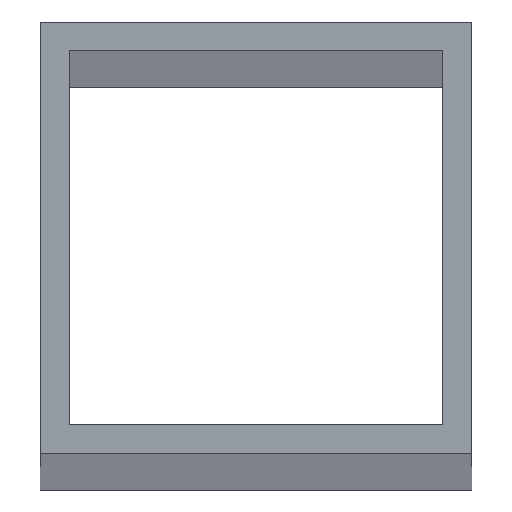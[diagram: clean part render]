
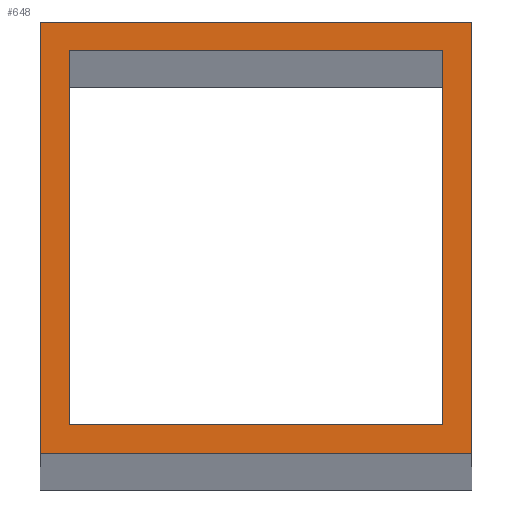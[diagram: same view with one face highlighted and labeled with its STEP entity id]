
A CAD part, top view. The second image highlights one B-rep face of the part: STEP entity #648.
In plain terms, the highlighted planar face has unit normal (0, 0, 1).
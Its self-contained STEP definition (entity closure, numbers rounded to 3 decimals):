
#24 = VERTEX_POINT('',#25);
#25 = CARTESIAN_POINT('',(-30.,-30.,2914.334));
#32 = PLANE('',#33);
#33 = AXIS2_PLACEMENT_3D('',#34,#35,#36);
#34 = CARTESIAN_POINT('',(-30.,-30.,0.));
#35 = DIRECTION('',(0.,1.,0.));
#36 = DIRECTION('',(1.,0.,0.));
#44 = PLANE('',#45);
#45 = AXIS2_PLACEMENT_3D('',#46,#47,#48);
#46 = CARTESIAN_POINT('',(-30.,30.,0.));
#47 = DIRECTION('',(1.,0.,-0.));
#48 = DIRECTION('',(0.,-1.,0.));
#56 = EDGE_CURVE('',#24,#57,#59,.T.);
#57 = VERTEX_POINT('',#58);
#58 = CARTESIAN_POINT('',(30.,-30.,2914.334));
#59 = SURFACE_CURVE('',#60,(#64,#71),.PCURVE_S1.);
#60 = LINE('',#61,#62);
#61 = CARTESIAN_POINT('',(-30.,-30.,2914.334));
#62 = VECTOR('',#63,1.);
#63 = DIRECTION('',(1.,0.,0.));
#64 = PCURVE('',#32,#65);
#65 = DEFINITIONAL_REPRESENTATION('',(#66),#70);
#66 = LINE('',#67,#68);
#67 = CARTESIAN_POINT('',(0.,-2914.334));
#68 = VECTOR('',#69,1.);
#69 = DIRECTION('',(1.,0.));
#70 = ( GEOMETRIC_REPRESENTATION_CONTEXT(2) 
PARAMETRIC_REPRESENTATION_CONTEXT() REPRESENTATION_CONTEXT('2D SPACE',''
  ) );
#71 = PCURVE('',#72,#77);
#72 = PLANE('',#73);
#73 = AXIS2_PLACEMENT_3D('',#74,#75,#76);
#74 = CARTESIAN_POINT('',(0.,0.,2914.334));
#75 = DIRECTION('',(0.,0.,1.));
#76 = DIRECTION('',(1.,0.,-0.));
#77 = DEFINITIONAL_REPRESENTATION('',(#78),#82);
#78 = LINE('',#79,#80);
#79 = CARTESIAN_POINT('',(-30.,-30.));
#80 = VECTOR('',#81,1.);
#81 = DIRECTION('',(1.,0.));
#82 = ( GEOMETRIC_REPRESENTATION_CONTEXT(2) 
PARAMETRIC_REPRESENTATION_CONTEXT() REPRESENTATION_CONTEXT('2D SPACE',''
  ) );
#100 = PLANE('',#101);
#101 = AXIS2_PLACEMENT_3D('',#102,#103,#104);
#102 = CARTESIAN_POINT('',(30.,-30.,0.));
#103 = DIRECTION('',(-1.,0.,0.));
#104 = DIRECTION('',(0.,1.,0.));
#142 = EDGE_CURVE('',#57,#143,#145,.T.);
#143 = VERTEX_POINT('',#144);
#144 = CARTESIAN_POINT('',(30.,30.,2914.334));
#145 = SURFACE_CURVE('',#146,(#150,#157),.PCURVE_S1.);
#146 = LINE('',#147,#148);
#147 = CARTESIAN_POINT('',(30.,-30.,2914.334));
#148 = VECTOR('',#149,1.);
#149 = DIRECTION('',(0.,1.,0.));
#150 = PCURVE('',#100,#151);
#151 = DEFINITIONAL_REPRESENTATION('',(#152),#156);
#152 = LINE('',#153,#154);
#153 = CARTESIAN_POINT('',(0.,-2914.334));
#154 = VECTOR('',#155,1.);
#155 = DIRECTION('',(1.,0.));
#156 = ( GEOMETRIC_REPRESENTATION_CONTEXT(2) 
PARAMETRIC_REPRESENTATION_CONTEXT() REPRESENTATION_CONTEXT('2D SPACE',''
  ) );
#157 = PCURVE('',#72,#158);
#158 = DEFINITIONAL_REPRESENTATION('',(#159),#163);
#159 = LINE('',#160,#161);
#160 = CARTESIAN_POINT('',(30.,-30.));
#161 = VECTOR('',#162,1.);
#162 = DIRECTION('',(0.,1.));
#163 = ( GEOMETRIC_REPRESENTATION_CONTEXT(2) 
PARAMETRIC_REPRESENTATION_CONTEXT() REPRESENTATION_CONTEXT('2D SPACE',''
  ) );
#181 = PLANE('',#182);
#182 = AXIS2_PLACEMENT_3D('',#183,#184,#185);
#183 = CARTESIAN_POINT('',(30.,30.,0.));
#184 = DIRECTION('',(0.,-1.,0.));
#185 = DIRECTION('',(-1.,0.,0.));
#218 = EDGE_CURVE('',#143,#219,#221,.T.);
#219 = VERTEX_POINT('',#220);
#220 = CARTESIAN_POINT('',(-30.,30.,2914.334));
#221 = SURFACE_CURVE('',#222,(#226,#233),.PCURVE_S1.);
#222 = LINE('',#223,#224);
#223 = CARTESIAN_POINT('',(30.,30.,2914.334));
#224 = VECTOR('',#225,1.);
#225 = DIRECTION('',(-1.,0.,0.));
#226 = PCURVE('',#181,#227);
#227 = DEFINITIONAL_REPRESENTATION('',(#228),#232);
#228 = LINE('',#229,#230);
#229 = CARTESIAN_POINT('',(0.,-2914.334));
#230 = VECTOR('',#231,1.);
#231 = DIRECTION('',(1.,0.));
#232 = ( GEOMETRIC_REPRESENTATION_CONTEXT(2) 
PARAMETRIC_REPRESENTATION_CONTEXT() REPRESENTATION_CONTEXT('2D SPACE',''
  ) );
#233 = PCURVE('',#72,#234);
#234 = DEFINITIONAL_REPRESENTATION('',(#235),#239);
#235 = LINE('',#236,#237);
#236 = CARTESIAN_POINT('',(30.,30.));
#237 = VECTOR('',#238,1.);
#238 = DIRECTION('',(-1.,0.));
#239 = ( GEOMETRIC_REPRESENTATION_CONTEXT(2) 
PARAMETRIC_REPRESENTATION_CONTEXT() REPRESENTATION_CONTEXT('2D SPACE',''
  ) );
#289 = EDGE_CURVE('',#219,#24,#290,.T.);
#290 = SURFACE_CURVE('',#291,(#295,#302),.PCURVE_S1.);
#291 = LINE('',#292,#293);
#292 = CARTESIAN_POINT('',(-30.,30.,2914.334));
#293 = VECTOR('',#294,1.);
#294 = DIRECTION('',(0.,-1.,0.));
#295 = PCURVE('',#44,#296);
#296 = DEFINITIONAL_REPRESENTATION('',(#297),#301);
#297 = LINE('',#298,#299);
#298 = CARTESIAN_POINT('',(0.,-2914.334));
#299 = VECTOR('',#300,1.);
#300 = DIRECTION('',(1.,0.));
#301 = ( GEOMETRIC_REPRESENTATION_CONTEXT(2) 
PARAMETRIC_REPRESENTATION_CONTEXT() REPRESENTATION_CONTEXT('2D SPACE',''
  ) );
#302 = PCURVE('',#72,#303);
#303 = DEFINITIONAL_REPRESENTATION('',(#304),#308);
#304 = LINE('',#305,#306);
#305 = CARTESIAN_POINT('',(-30.,30.));
#306 = VECTOR('',#307,1.);
#307 = DIRECTION('',(0.,-1.));
#308 = ( GEOMETRIC_REPRESENTATION_CONTEXT(2) 
PARAMETRIC_REPRESENTATION_CONTEXT() REPRESENTATION_CONTEXT('2D SPACE',''
  ) );
#338 = VERTEX_POINT('',#339);
#339 = CARTESIAN_POINT('',(-26.,-26.,2914.334));
#346 = PLANE('',#347);
#347 = AXIS2_PLACEMENT_3D('',#348,#349,#350);
#348 = CARTESIAN_POINT('',(-26.,-26.,0.));
#349 = DIRECTION('',(0.,1.,0.));
#350 = DIRECTION('',(1.,0.,0.));
#358 = PLANE('',#359);
#359 = AXIS2_PLACEMENT_3D('',#360,#361,#362);
#360 = CARTESIAN_POINT('',(-26.,26.,0.));
#361 = DIRECTION('',(1.,0.,-0.));
#362 = DIRECTION('',(0.,-1.,0.));
#370 = EDGE_CURVE('',#338,#371,#373,.T.);
#371 = VERTEX_POINT('',#372);
#372 = CARTESIAN_POINT('',(26.,-26.,2914.334));
#373 = SURFACE_CURVE('',#374,(#378,#385),.PCURVE_S1.);
#374 = LINE('',#375,#376);
#375 = CARTESIAN_POINT('',(-26.,-26.,2914.334));
#376 = VECTOR('',#377,1.);
#377 = DIRECTION('',(1.,0.,0.));
#378 = PCURVE('',#346,#379);
#379 = DEFINITIONAL_REPRESENTATION('',(#380),#384);
#380 = LINE('',#381,#382);
#381 = CARTESIAN_POINT('',(0.,-2914.334));
#382 = VECTOR('',#383,1.);
#383 = DIRECTION('',(1.,0.));
#384 = ( GEOMETRIC_REPRESENTATION_CONTEXT(2) 
PARAMETRIC_REPRESENTATION_CONTEXT() REPRESENTATION_CONTEXT('2D SPACE',''
  ) );
#385 = PCURVE('',#72,#386);
#386 = DEFINITIONAL_REPRESENTATION('',(#387),#391);
#387 = LINE('',#388,#389);
#388 = CARTESIAN_POINT('',(-26.,-26.));
#389 = VECTOR('',#390,1.);
#390 = DIRECTION('',(1.,0.));
#391 = ( GEOMETRIC_REPRESENTATION_CONTEXT(2) 
PARAMETRIC_REPRESENTATION_CONTEXT() REPRESENTATION_CONTEXT('2D SPACE',''
  ) );
#409 = PLANE('',#410);
#410 = AXIS2_PLACEMENT_3D('',#411,#412,#413);
#411 = CARTESIAN_POINT('',(26.,-26.,0.));
#412 = DIRECTION('',(-1.,0.,0.));
#413 = DIRECTION('',(0.,1.,0.));
#446 = EDGE_CURVE('',#371,#447,#449,.T.);
#447 = VERTEX_POINT('',#448);
#448 = CARTESIAN_POINT('',(26.,26.,2914.334));
#449 = SURFACE_CURVE('',#450,(#454,#461),.PCURVE_S1.);
#450 = LINE('',#451,#452);
#451 = CARTESIAN_POINT('',(26.,-26.,2914.334));
#452 = VECTOR('',#453,1.);
#453 = DIRECTION('',(0.,1.,0.));
#454 = PCURVE('',#409,#455);
#455 = DEFINITIONAL_REPRESENTATION('',(#456),#460);
#456 = LINE('',#457,#458);
#457 = CARTESIAN_POINT('',(0.,-2914.334));
#458 = VECTOR('',#459,1.);
#459 = DIRECTION('',(1.,0.));
#460 = ( GEOMETRIC_REPRESENTATION_CONTEXT(2) 
PARAMETRIC_REPRESENTATION_CONTEXT() REPRESENTATION_CONTEXT('2D SPACE',''
  ) );
#461 = PCURVE('',#72,#462);
#462 = DEFINITIONAL_REPRESENTATION('',(#463),#467);
#463 = LINE('',#464,#465);
#464 = CARTESIAN_POINT('',(26.,-26.));
#465 = VECTOR('',#466,1.);
#466 = DIRECTION('',(0.,1.));
#467 = ( GEOMETRIC_REPRESENTATION_CONTEXT(2) 
PARAMETRIC_REPRESENTATION_CONTEXT() REPRESENTATION_CONTEXT('2D SPACE',''
  ) );
#485 = PLANE('',#486);
#486 = AXIS2_PLACEMENT_3D('',#487,#488,#489);
#487 = CARTESIAN_POINT('',(26.,26.,0.));
#488 = DIRECTION('',(0.,-1.,0.));
#489 = DIRECTION('',(-1.,0.,0.));
#522 = EDGE_CURVE('',#447,#523,#525,.T.);
#523 = VERTEX_POINT('',#524);
#524 = CARTESIAN_POINT('',(-26.,26.,2914.334));
#525 = SURFACE_CURVE('',#526,(#530,#537),.PCURVE_S1.);
#526 = LINE('',#527,#528);
#527 = CARTESIAN_POINT('',(26.,26.,2914.334));
#528 = VECTOR('',#529,1.);
#529 = DIRECTION('',(-1.,0.,0.));
#530 = PCURVE('',#485,#531);
#531 = DEFINITIONAL_REPRESENTATION('',(#532),#536);
#532 = LINE('',#533,#534);
#533 = CARTESIAN_POINT('',(0.,-2914.334));
#534 = VECTOR('',#535,1.);
#535 = DIRECTION('',(1.,0.));
#536 = ( GEOMETRIC_REPRESENTATION_CONTEXT(2) 
PARAMETRIC_REPRESENTATION_CONTEXT() REPRESENTATION_CONTEXT('2D SPACE',''
  ) );
#537 = PCURVE('',#72,#538);
#538 = DEFINITIONAL_REPRESENTATION('',(#539),#543);
#539 = LINE('',#540,#541);
#540 = CARTESIAN_POINT('',(26.,26.));
#541 = VECTOR('',#542,1.);
#542 = DIRECTION('',(-1.,0.));
#543 = ( GEOMETRIC_REPRESENTATION_CONTEXT(2) 
PARAMETRIC_REPRESENTATION_CONTEXT() REPRESENTATION_CONTEXT('2D SPACE',''
  ) );
#593 = EDGE_CURVE('',#523,#338,#594,.T.);
#594 = SURFACE_CURVE('',#595,(#599,#606),.PCURVE_S1.);
#595 = LINE('',#596,#597);
#596 = CARTESIAN_POINT('',(-26.,26.,2914.334));
#597 = VECTOR('',#598,1.);
#598 = DIRECTION('',(0.,-1.,0.));
#599 = PCURVE('',#358,#600);
#600 = DEFINITIONAL_REPRESENTATION('',(#601),#605);
#601 = LINE('',#602,#603);
#602 = CARTESIAN_POINT('',(0.,-2914.334));
#603 = VECTOR('',#604,1.);
#604 = DIRECTION('',(1.,0.));
#605 = ( GEOMETRIC_REPRESENTATION_CONTEXT(2) 
PARAMETRIC_REPRESENTATION_CONTEXT() REPRESENTATION_CONTEXT('2D SPACE',''
  ) );
#606 = PCURVE('',#72,#607);
#607 = DEFINITIONAL_REPRESENTATION('',(#608),#612);
#608 = LINE('',#609,#610);
#609 = CARTESIAN_POINT('',(-26.,26.));
#610 = VECTOR('',#611,1.);
#611 = DIRECTION('',(0.,-1.));
#612 = ( GEOMETRIC_REPRESENTATION_CONTEXT(2) 
PARAMETRIC_REPRESENTATION_CONTEXT() REPRESENTATION_CONTEXT('2D SPACE',''
  ) );
#648 = ADVANCED_FACE('',(#649,#655),#72,.T.);
#649 = FACE_BOUND('',#650,.T.);
#650 = EDGE_LOOP('',(#651,#652,#653,#654));
#651 = ORIENTED_EDGE('',*,*,#56,.T.);
#652 = ORIENTED_EDGE('',*,*,#142,.T.);
#653 = ORIENTED_EDGE('',*,*,#218,.T.);
#654 = ORIENTED_EDGE('',*,*,#289,.T.);
#655 = FACE_BOUND('',#656,.F.);
#656 = EDGE_LOOP('',(#657,#658,#659,#660));
#657 = ORIENTED_EDGE('',*,*,#370,.T.);
#658 = ORIENTED_EDGE('',*,*,#446,.T.);
#659 = ORIENTED_EDGE('',*,*,#522,.T.);
#660 = ORIENTED_EDGE('',*,*,#593,.T.);
